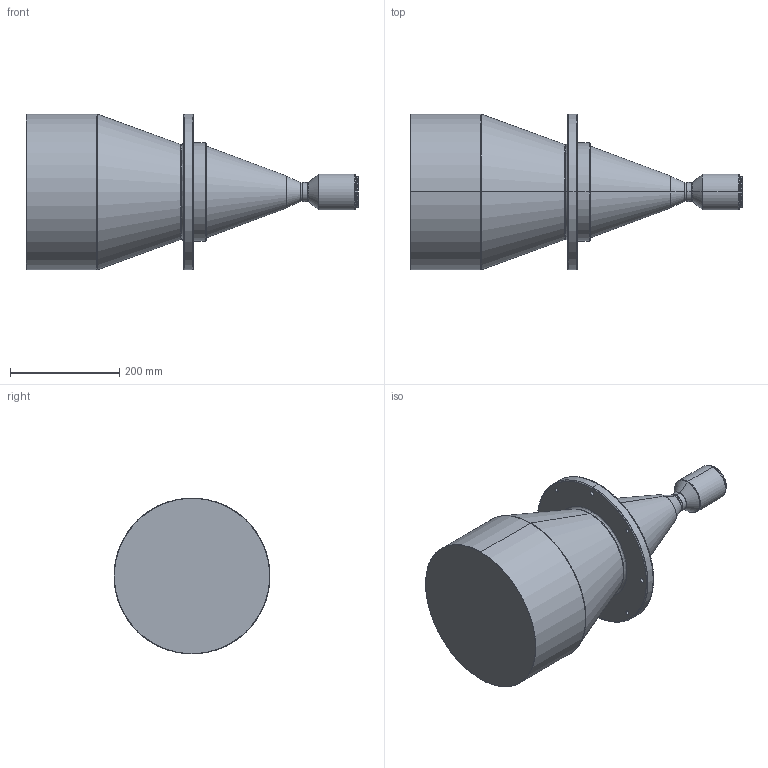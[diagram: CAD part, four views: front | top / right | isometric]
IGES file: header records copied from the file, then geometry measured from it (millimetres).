
Start section: SolidWorks IGES file using analytic representation for surfaces
Global section: file name: C:\Users\Administrator\Desktop\DTCM430H-240H-M58-AL.IGS; native system: SolidWorks 2017; preprocessor: SolidWorks 2017; author: Administrator; date: 210315.141044; units: millimetre
Bounding box: 609.1 x 286 x 286 mm (x, y, z)
Surface area: 498128.3 mm2 (no closed solid volume)
Topology: 0 solids, 0 shells, 78 faces, 1936 edges, 1936 vertices
Faces by surface type: revolution 52, bspline 26
